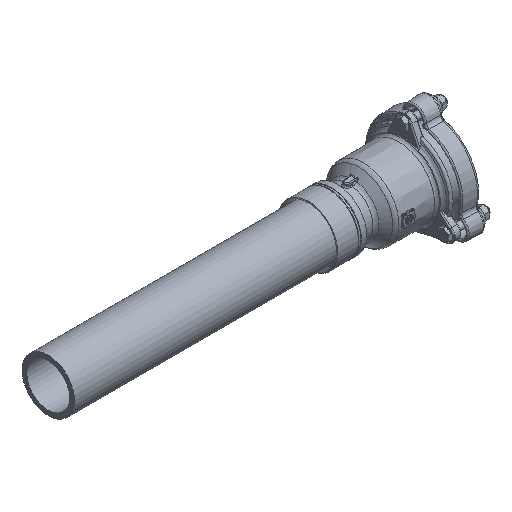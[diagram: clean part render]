
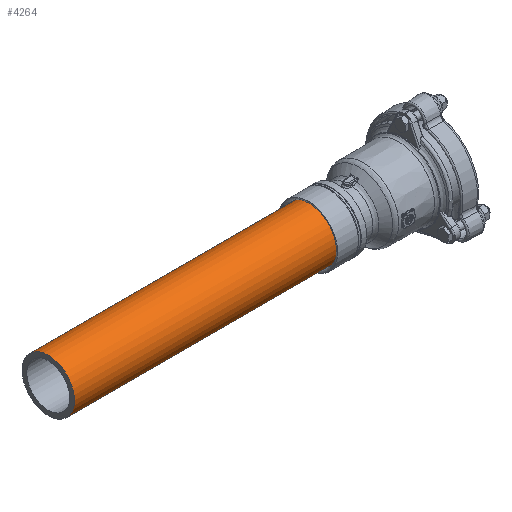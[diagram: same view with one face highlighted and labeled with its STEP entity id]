
A CAD part, isometric view. The second image highlights one B-rep face of the part: STEP entity #4264.
In plain terms, the highlighted cylindrical face has radius 45 mm (diameter 90 mm), a full revolution.
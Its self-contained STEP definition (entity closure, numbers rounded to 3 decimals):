
#4237=CARTESIAN_POINT('',(-622.0,0.0,0.0));
#4238=DIRECTION('',(1.0,0.0,0.0));
#4239=DIRECTION('',(0.0,0.0,1.0));
#4240=AXIS2_PLACEMENT_3D('',#4237,#4238,#4239);
#4241=CYLINDRICAL_SURFACE('',#4240,45.0);
#4242=CARTESIAN_POINT('',(-622.0,0.,-45.0));
#4243=VERTEX_POINT('',#4242);
#4244=CARTESIAN_POINT('',(-622.0,0.0,0.0));
#4245=DIRECTION('',(-1.0,0.0,0.0));
#4246=DIRECTION('',(0.0,0.0,1.0));
#4247=AXIS2_PLACEMENT_3D('',#4244,#4245,#4246);
#4248=CIRCLE('',#4247,45.0);
#4249=EDGE_CURVE('',#4243,#4243,#4248,.T.);
#4250=ORIENTED_EDGE('',*,*,#4249,.F.);
#4251=EDGE_LOOP('',(#4250));
#4252=FACE_OUTER_BOUND('',#4251,.T.);
#4253=CARTESIAN_POINT('',(-151.0,0.,-45.0));
#4254=VERTEX_POINT('',#4253);
#4255=CARTESIAN_POINT('',(-151.0,0.0,0.0));
#4256=DIRECTION('',(-1.0,0.0,0.0));
#4257=DIRECTION('',(0.0,0.0,1.0));
#4258=AXIS2_PLACEMENT_3D('',#4255,#4256,#4257);
#4259=CIRCLE('',#4258,45.0);
#4260=EDGE_CURVE('',#4254,#4254,#4259,.T.);
#4261=ORIENTED_EDGE('',*,*,#4260,.T.);
#4262=EDGE_LOOP('',(#4261));
#4263=FACE_BOUND('',#4262,.T.);
#4264=ADVANCED_FACE('',(#4252,#4263),#4241,.T.);
